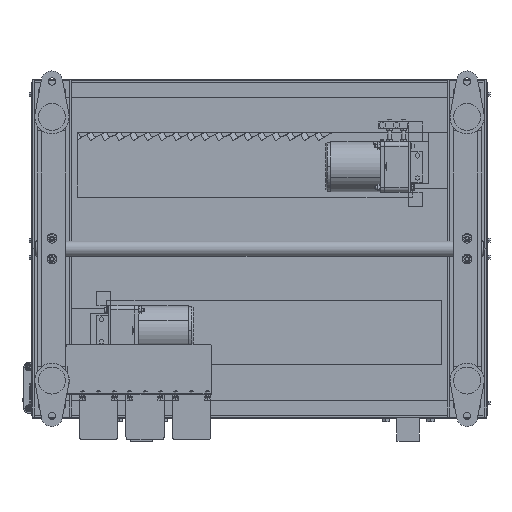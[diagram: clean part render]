
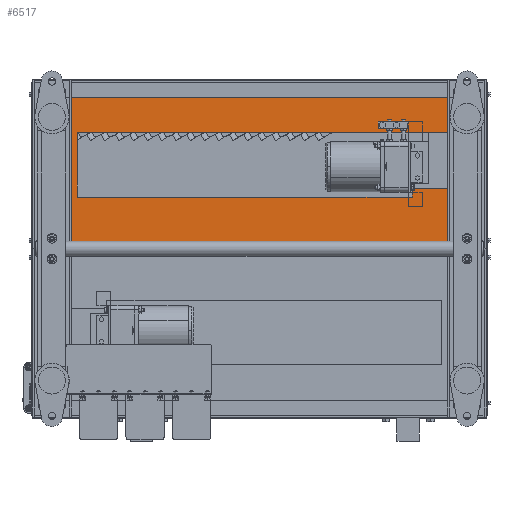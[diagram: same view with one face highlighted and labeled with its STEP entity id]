
A CAD part, front view. The second image highlights one B-rep face of the part: STEP entity #6517.
In plain terms, the highlighted planar face has unit normal (0, -1, 0).
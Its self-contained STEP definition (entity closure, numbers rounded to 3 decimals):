
#6517=ADVANCED_FACE('',(#38535,#38536),#38534,.F.);
#38534=PLANE('',#58721);
#38535=FACE_OUTER_BOUND('',#58722,.T.);
#38536=FACE_BOUND('',#58723,.T.);
#58718=CARTESIAN_POINT('',(817.,-93.,-8.5));
#58719=DIRECTION('',(0.,1.,0.));
#58720=DIRECTION('',(-1.,0.,0.));
#58721=AXIS2_PLACEMENT_3D('',#58718,#58719,#58720);
#58722=EDGE_LOOP('',(#74603,#74604,#74605,#74606));
#58723=EDGE_LOOP('',(#74607,#74608,#74609,#74610,#74611,#74612));
#74603=ORIENTED_EDGE('',*,*,#83017,.F.);
#74604=ORIENTED_EDGE('',*,*,#83015,.F.);
#74605=ORIENTED_EDGE('',*,*,#83007,.T.);
#74606=ORIENTED_EDGE('',*,*,#83018,.T.);
#74607=ORIENTED_EDGE('',*,*,#83019,.F.);
#74608=ORIENTED_EDGE('',*,*,#83020,.F.);
#74609=ORIENTED_EDGE('',*,*,#83021,.F.);
#74610=ORIENTED_EDGE('',*,*,#83022,.F.);
#74611=ORIENTED_EDGE('',*,*,#83023,.F.);
#74612=ORIENTED_EDGE('',*,*,#83024,.F.);
#83007=EDGE_CURVE('',#134748,#134740,#134749,.T.);
#83015=EDGE_CURVE('',#134748,#134801,#134802,.T.);
#83017=EDGE_CURVE('',#134801,#134814,#134815,.T.);
#83018=EDGE_CURVE('',#134740,#134814,#134821,.T.);
#83019=EDGE_CURVE('',#134827,#134828,#134829,.T.);
#83020=EDGE_CURVE('',#134835,#134827,#134836,.T.);
#83021=EDGE_CURVE('',#134842,#134835,#134843,.T.);
#83022=EDGE_CURVE('',#134849,#134842,#134850,.T.);
#83023=EDGE_CURVE('',#134856,#134849,#134857,.T.);
#83024=EDGE_CURVE('',#134828,#134856,#134863,.T.);
#134740=VERTEX_POINT('',#167871);
#134748=VERTEX_POINT('',#167876);
#134749=LINE('',#167877,#167878);
#134801=VERTEX_POINT('',#167905);
#134802=LINE('',#167906,#167907);
#134814=VERTEX_POINT('',#167912);
#134815=LINE('',#167913,#167914);
#134821=LINE('',#167916,#167917);
#134827=VERTEX_POINT('',#167919);
#134828=VERTEX_POINT('',#167920);
#134829=LINE('',#167921,#167922);
#134835=VERTEX_POINT('',#167924);
#134836=LINE('',#167925,#167926);
#134842=VERTEX_POINT('',#167928);
#134843=LINE('',#167929,#167930);
#134849=VERTEX_POINT('',#167932);
#134850=LINE('',#167933,#167934);
#134856=VERTEX_POINT('',#167936);
#134857=LINE('',#167937,#167938);
#134863=LINE('',#167940,#167941);
#167871=CARTESIAN_POINT('',(3.,-93.,297.));
#167876=CARTESIAN_POINT('',(807.,-93.,297.));
#167877=CARTESIAN_POINT('',(807.,-93.,297.));
#167878=VECTOR('',#167879,804.);
#167879=DIRECTION('',(-1.,0.,0.));
#167905=CARTESIAN_POINT('',(807.,-93.,1.5));
#167906=CARTESIAN_POINT('',(807.,-93.,297.));
#167907=VECTOR('',#167908,295.5);
#167908=DIRECTION('',(0.,0.,-1.));
#167912=CARTESIAN_POINT('',(3.,-93.,1.5));
#167913=CARTESIAN_POINT('',(807.,-93.,1.5));
#167914=VECTOR('',#167915,804.);
#167915=DIRECTION('',(-1.,0.,0.));
#167916=CARTESIAN_POINT('',(3.,-93.,297.));
#167917=VECTOR('',#167918,295.5);
#167918=DIRECTION('',(0.,0.,-1.));
#167919=CARTESIAN_POINT('',(677.,-93.,92.));
#167920=CARTESIAN_POINT('',(677.,-93.,107.));
#167921=CARTESIAN_POINT('',(677.,-93.,92.));
#167922=VECTOR('',#167923,15.);
#167923=DIRECTION('',(0.,0.,1.));
#167924=CARTESIAN_POINT('',(80.,-93.,92.));
#167925=CARTESIAN_POINT('',(80.,-93.,92.));
#167926=VECTOR('',#167927,597.);
#167927=DIRECTION('',(1.,0.,0.));
#167928=CARTESIAN_POINT('',(80.,-93.,207.));
#167929=CARTESIAN_POINT('',(80.,-93.,207.));
#167930=VECTOR('',#167931,115.);
#167931=DIRECTION('',(0.,0.,-1.));
#167932=CARTESIAN_POINT('',(770.,-93.,207.));
#167933=CARTESIAN_POINT('',(770.,-93.,207.));
#167934=VECTOR('',#167935,690.);
#167935=DIRECTION('',(-1.,0.,0.));
#167936=CARTESIAN_POINT('',(770.,-93.,107.));
#167937=CARTESIAN_POINT('',(770.,-93.,107.));
#167938=VECTOR('',#167939,100.);
#167939=DIRECTION('',(0.,0.,1.));
#167940=CARTESIAN_POINT('',(677.,-93.,107.));
#167941=VECTOR('',#167942,93.);
#167942=DIRECTION('',(1.,0.,0.));
